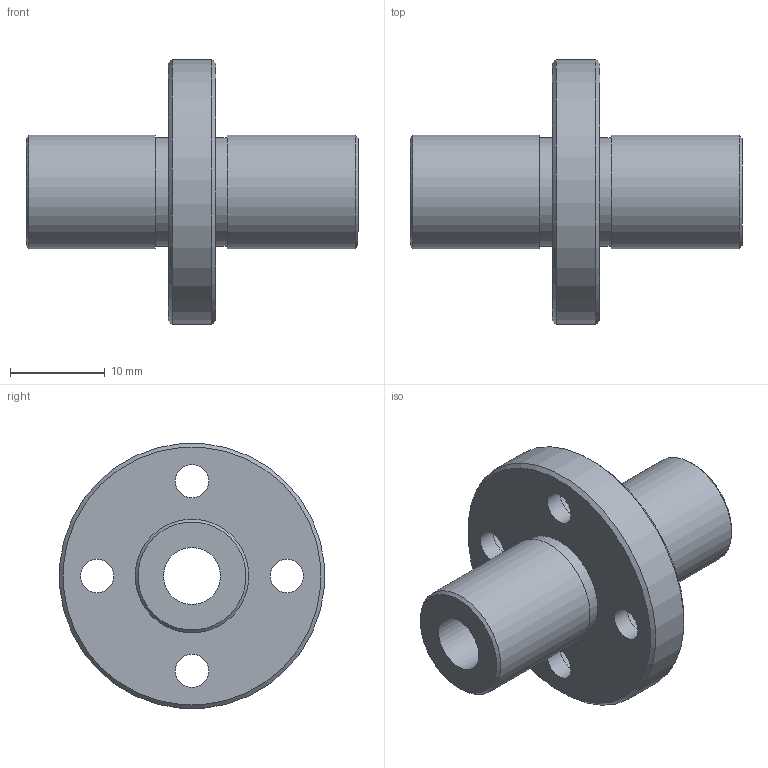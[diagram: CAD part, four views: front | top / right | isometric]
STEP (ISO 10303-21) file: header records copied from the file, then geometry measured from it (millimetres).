
FILE_DESCRIPTION(('STEP AP203'),'1');
FILE_NAME('//192.168.1.1/share/s-4 技術開発/s-4-4_CAD/s-4-4-3_見直し済み/002 修正済み/NFCD-VL/NFCD-VL_TOP/NFCD-6VLUU.step','2022-03-08T04:20:39',(' '),(' '),'Spatial InterOp 3D',' ',' ');
FILE_SCHEMA(('CONFIG_CONTROL_DESIGN'));
Length unit declared in the file: millimetre
Products named in the file (1): 1
Bounding box: 35 x 27.89 x 27.89 mm (x, y, z)
Volume: 5017.1 mm3; surface area: 3623.5 mm2
Topology: 1 solids, 1 shells, 28 faces, 60 edges, 42 vertices
Faces by surface type: cylinder 14, plane 10, cone 4
Full cylindrical faces by diameter (mm): 3.5 x4, 6 x5, 11.5 x2, 12 x2, 28 x1
Entity records: 668 total; most frequent: DIRECTION 122, CARTESIAN_POINT 93, EDGE_LOOP 64, ORIENTED_EDGE 64, AXIS2_PLACEMENT_3D 61, FACE_OUTER_BOUND 42, EDGE_CURVE 32, VERTEX_POINT 32
